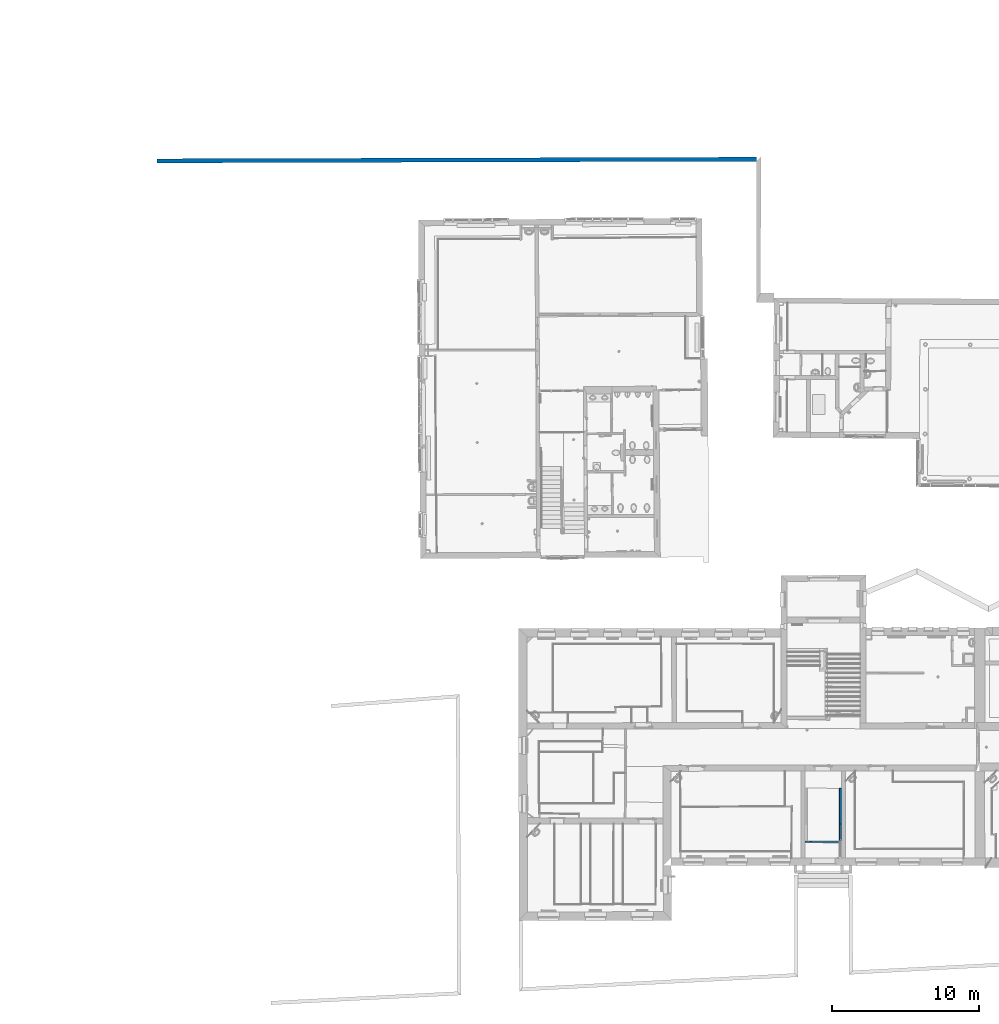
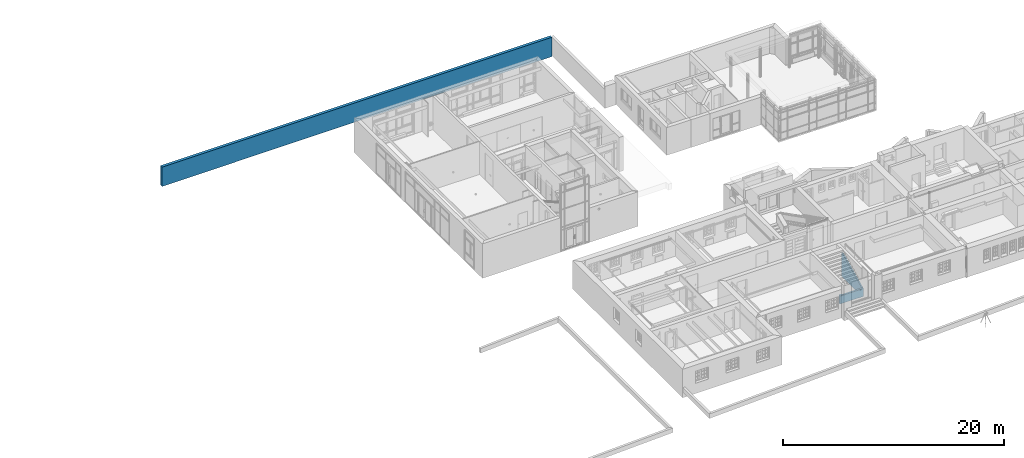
# One storey, part 78 of 196: 3 walls.
"""IFC2X3 building model written with IfcOpenShell, lengths in metres."""

from ifc_helpers import new_model, entity, si_unit, converted_unit, derived_unit, money_unit, direction, frame, origin_with_axes, place, context, subcontext, project, spatial, polyline, outline, extrude, boolean, faceted_brep, material, type_object, element, save


model = new_model("IFC2X3")

# Units and contexts
model_context = context("Model", 3, precision=1e-05, world=origin_with_axes(), true_north=direction((0.0, 1.0)))
body_context = subcontext(model_context, "Body", "Model", "MODEL_VIEW")
ifc_project = project(units=[si_unit("LENGTHUNIT", "METRE"), si_unit("AREAUNIT", "SQUARE_METRE"), si_unit("VOLUMEUNIT", "CUBIC_METRE"), converted_unit("PLANEANGLEUNIT", "DEGREE", entity("IfcPlaneAngleMeasure", 0.0174532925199), si_unit("PLANEANGLEUNIT", "RADIAN"), dimensions=[0, 0, 0, 0, 0, 0, 0]), money_unit("EUR"), converted_unit("TIMEUNIT", "Year", entity("IfcTimeMeasure", 31556926.0), si_unit("TIMEUNIT", "SECOND"), dimensions=[0, 0, 1, 0, 0, 0, 0]), si_unit("MASSUNIT", "GRAM", prefix="KILO"), si_unit("THERMODYNAMICTEMPERATUREUNIT", "DEGREE_CELSIUS"), si_unit("LUMINOUSINTENSITYUNIT", "LUMEN"), si_unit("ENERGYUNIT", "JOULE", prefix="MEGA"), derived_unit("THERMALCONDUCTANCEUNIT", [(si_unit("POWERUNIT", "WATT"), 1), (si_unit("LENGTHUNIT", "METRE"), -1), (si_unit("THERMODYNAMICTEMPERATUREUNIT", "KELVIN"), -1)]), derived_unit("SPECIFICHEATCAPACITYUNIT", [(si_unit("ENERGYUNIT", "JOULE"), 1), (si_unit("MASSUNIT", "GRAM", prefix="KILO"), -1), (si_unit("THERMODYNAMICTEMPERATUREUNIT", "KELVIN"), -1)]), derived_unit("MASSDENSITYUNIT", [(si_unit("MASSUNIT", "GRAM", prefix="KILO"), 1), (si_unit("VOLUMEUNIT", "CUBIC_METRE"), -1)])], contexts=[model_context])

# Site, building, storey
site_placement = place(None, origin_with_axes())
site = spatial("IfcSite", under=ifc_project, at=site_placement, Name="Gelände", CompositionType="ELEMENT")
building_placement = place(site_placement, origin_with_axes())
building = spatial("IfcBuilding", under=site, at=building_placement, Name="Gebäude", CompositionType="ELEMENT")
storey_placement = place(building_placement, frame((0.0, 0.0, -3.0), z_axis=(0.0, 0.0, 1.0), x_axis=(1.0, 0.0, 0.0)))
storey = spatial("IfcBuildingStorey", under=building, at=storey_placement, Name="KELLERGESCHOSS", CompositionType="ELEMENT", Elevation=-3.0)

# Walls
ifc_material = material(Name="05_ALLGEMEIN - TRAGENDE BAUTEILE")
wall_type_1 = type_object("IfcWallType", Name="05_ALLGEMEIN - TRAGENDE BAUTEILE 280", PredefinedType="ELEMENTEDWALL")
wall_1_placement = place(storey_placement, frame((-11.9120380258, 57.9060477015, 0.351186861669), z_axis=(0.0, 0.0, 1.0), x_axis=(-0.999996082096, -0.00279924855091, 0.0)))
element("IfcWall", 1, at=wall_1_placement, inside=storey, type_object=wall_type_1, material=ifc_material, Name="Wand-030", ObjectType="ELEMENTEDWALL", context=body_context, shape_type="CSG", body=[
    boolean("DIFFERENCE", boolean("DIFFERENCE", extrude(outline(polyline([(-0.281221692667, -0.28), (40.8435935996, -0.28), (40.8435935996, 0.0), (-0.281221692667, 0.0), (-0.281221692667, -0.28)])), origin_with_axes(), (0.0, 0.0, 1.0), 2.14290263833), faceted_brep([(33.8388157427, 0.0, 0.0), (34.0438513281, -0.28, 0.0), (7.8762362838, -0.28, 0.0), (6.60895012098, 0.0, 0.0), (31.9331013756, 0.0, 0.0178797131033), (32.2626395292, -0.28, 0.0167116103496), (14.5317369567, -0.28, 0.0135414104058), (29.0819881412, -0.28, 0.0214847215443), (13.8035309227, 0.0, 0.0146382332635), (28.6809350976, 0.0, 0.0227601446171)], [[[0, 1, 2, 3]], [[0, 4, 5, 1]], [[6, 2, 1, 5, 7]], [[8, 3, 2, 6]], [[4, 0, 3, 8, 9]], [[4, 9, 7, 5]], [[9, 8, 6, 7]]])), faceted_brep([(0.0, -0.28, 0.0888131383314), (-0.00121903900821, -0.28, 0.0888131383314), (-0.00121903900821, -0.28, 2.14290263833), (-0.281221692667, -0.28, 2.14290263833), (-0.281221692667, -0.28, 0.0), (0.0, -0.28, 0.0), (0.0, 0.0, 0.0888131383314), (0.0, 0.0, 2.14290263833), (-0.281221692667, 0.0, 2.14290263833), (-0.281221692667, 0.0, 0.0), (0.0, 0.0, 0.0)], [[[0, 1, 2, 3, 4, 5]], [[1, 0, 6]], [[7, 2, 1, 6]], [[2, 7, 8, 3]], [[8, 9, 4, 3]], [[10, 5, 4, 9]], [[10, 6, 0, 5]], [[6, 10, 9, 8, 7]]])),
])
wall_type_2 = type_object("IfcWallType", Name="05_ALLGEMEIN - TRAGENDE BAUTEILE 120", PredefinedType="ELEMENTEDWALL")
wall_2_placement = place(storey_placement, frame((-8.61183132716, 11.6288035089, -0.1), z_axis=(0.0, 0.0, 1.0), x_axis=(0.999983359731, -0.00576890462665, 0.0)))
element("IfcWall", 2, at=wall_2_placement, inside=storey, type_object=wall_type_2, material=ifc_material, Name="Wand-037", ObjectType="ELEMENTEDWALL", context=body_context, shape_type="CSG", body=[
    boolean("DIFFERENCE", extrude(outline(polyline([(-0.280006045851, -0.12), (2.75538607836, -0.12), (2.75538607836, 0.0), (-0.280006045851, 0.0), (-0.280006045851, -0.12)])), origin_with_axes(), (0.0, 0.0, 1.0), 1.02429802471), faceted_brep([(0.0, 0.0, 1.02429802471), (-1.5357493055e-10, 0.0, 1.02174445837), (0.272555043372, 0.0, 1.02397747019), (0.171854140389, 0.0, 1.02429802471), (2.75538607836, 0.0, 1.02429802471), (2.75538607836, 0.0, 0.0), (-0.280006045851, 0.0, 0.0), (-0.280006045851, 0.0, 1.02429802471), (0.0, 0.0, 0.0595719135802), (2.33466511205, 0.0, 0.0595719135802), (2.33466511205, 0.0, 0.996067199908), (0.0, 0.0, 0.976939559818), (0.000788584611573, -0.12, 0.966714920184), (0.000788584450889, -0.119999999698, 0.961200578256), (7.42122072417e-06, -0.00112929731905, 1.02429802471), (0.00037736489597, -0.0574241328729, 0.997027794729), (0.485518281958, -0.12000000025, 0.965171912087), (0.370152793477, -0.0549941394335, 0.997027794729), (-0.280006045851, -0.12, 1.02429802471), (2.75538607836, -0.12, 1.02429802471), (2.75538607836, -0.12, 0.0), (-0.280006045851, -0.12, 0.0), (0.000788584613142, -0.12, 0.0595719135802), (2.46538097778, -0.119999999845, 0.0595719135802), (2.46467203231, -0.000772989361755, 0.0595719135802), (2.33466970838, -0.000772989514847, 0.0595719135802), (2.33466970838, -0.000772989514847, 0.995677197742), (2.46538097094, -0.120000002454, 0.936587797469), (0.000788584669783, -0.119999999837, 0.916395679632), (2.46467202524, -0.000772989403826, 0.99674229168)], [[[0, 1, 2, 3, 4, 5, 6, 7], [8, 9, 10, 11]], [[12, 13, 1, 0, 14, 15]], [[13, 16, 17, 2, 1]], [[3, 2, 17, 15, 14]], [[14, 0, 7, 18, 19, 4, 3]], [[19, 20, 5, 4]], [[20, 21, 6, 5]], [[7, 6, 21, 18]], [[22, 23, 24, 25, 9, 8]], [[10, 9, 25, 26]], [[27, 28, 11, 10, 26, 29]], [[28, 22, 8, 11]], [[18, 21, 20, 19], [13, 12, 16], [22, 28, 27, 23]], [[16, 12, 15, 17]], [[23, 27, 29, 24]], [[26, 25, 24, 29]]])),
])
wall_type_3 = type_object("IfcWallType", Name="05_ALLGEMEIN - TRAGENDE BAUTEILE 130", PredefinedType="ELEMENTEDWALL")
wall_3_placement = place(storey_placement, frame((-6.1478409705, 15.2045556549, -0.36), z_axis=(0.0, 0.0, 1.0), x_axis=(0.000177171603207, -0.999999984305, 0.0)))
element("IfcWall", 3, at=wall_3_placement, inside=storey, type_object=wall_type_3, material=ifc_material, Name="Wand-037", ObjectType="ELEMENTEDWALL", context=body_context, shape_type="CSG", body=[
    boolean("DIFFERENCE", boolean("DIFFERENCE", extrude(outline(polyline([(0.0, -0.13), (3.58997063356, -0.13), (3.58997063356, 0.0), (0.0, 0.0), (0.0, -0.13)])), origin_with_axes(), (0.0, 0.0, 1.0), 3.065), faceted_brep([(0.0, 1.36477611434e-08, 0.31957191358), (3.58997063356, 2.57444305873e-08, 0.31957191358), (3.58997063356, 0.0, 0.0), (0.0, 0.0, 0.0), (3.58997063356, -0.13, 0.31957191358), (0.0, -0.13, 0.31957191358), (3.58997063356, -0.13, 0.0), (0.0, -0.13, 0.0)], [[[0, 1, 2, 3]], [[4, 1, 0, 5]], [[1, 4, 6, 2]], [[6, 7, 3, 2]], [[5, 0, 3, 7]], [[4, 5, 7, 6]]])), faceted_brep([(0.156908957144, 0.0, 2.94), (0.0, 6.21385609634e-10, 2.94), (0.0, 0.0, 3.065), (3.58997063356, 0.0, 3.065), (3.58997063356, 1.67664406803e-08, 1.27699946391), (3.54898223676, 0.0, 1.29685454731), (3.46676476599, 0.0, 1.33668129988), (3.38454729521, 0.0, 1.37650805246), (3.30232982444, 0.0, 1.41633480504), (3.22011235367, 0.0, 1.45616155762), (3.1378948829, 0.0, 1.49598831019), (3.05567741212, 0.0, 1.53581506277), (2.97345994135, 0.0, 1.57564181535), (2.89124247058, 0.0, 1.61546856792), (2.80902499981, 0.0, 1.6552953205), (2.72680752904, 0.0, 1.69512207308), (2.64459005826, 0.0, 1.73494882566), (2.56237258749, 0.0, 1.77477557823), (2.48015511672, 0.0, 1.81460233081), (2.39793764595, 0.0, 1.85442908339), (2.31572017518, 0.0, 1.89425583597), (2.2335027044, 0.0, 1.93408258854), (2.15128523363, 0.0, 1.97390934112), (2.06906776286, 0.0, 2.0137360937), (1.98685029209, 0.0, 2.05356284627), (1.90463282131, 0.0, 2.09338959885), (1.82241535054, 0.0, 2.13321635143), (1.74019787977, 0.0, 2.17304310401), (1.657980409, 0.0, 2.21286985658), (1.57576293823, 0.0, 2.25269660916), (1.49354546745, 0.0, 2.29252336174), (1.41132799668, 0.0, 2.33235011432), (1.32911052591, 0.0, 2.37217686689), (1.24689305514, 0.0, 2.41200361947), (1.16467558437, 0.0, 2.45183037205), (1.08245811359, 0.0, 2.49165712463), (1.00024064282, 0.0, 2.5314838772), (0.918023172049, 0.0, 2.57131062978), (0.835805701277, 0.0, 2.61113738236), (0.753588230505, 0.0, 2.65096413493), (0.671370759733, 0.0, 2.69079088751), (0.589153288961, 0.0, 2.73061764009), (0.506935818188, 0.0, 2.77044439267), (0.424718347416, 0.0, 2.81027114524), (0.342500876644, 0.0, 2.85009789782), (0.260283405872, 0.0, 2.8899246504), (0.1780659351, 0.0, 2.92975140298), (0.156990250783, -0.13, 2.94), (0.0, -0.13, 2.94), (0.0, -0.13, 3.065), (3.58997063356, -0.13, 3.065), (3.58997063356, -0.13, 1.27703884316), (3.5490635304, -0.13, 1.29685454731), (3.46684605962, -0.13, 1.33668129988), (3.38462858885, -0.13, 1.37650805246), (3.30241111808, -0.13, 1.41633480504), (3.22019364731, -0.13, 1.45616155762), (3.13797617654, -0.13, 1.49598831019), (3.05575870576, -0.13, 1.53581506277), (2.97354123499, -0.13, 1.57564181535), (2.89132376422, -0.13, 1.61546856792), (2.80910629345, -0.13, 1.6552953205), (2.72688882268, -0.13, 1.69512207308), (2.6446713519, -0.13, 1.73494882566), (2.56245388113, -0.13, 1.77477557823), (2.48023641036, -0.13, 1.81460233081), (2.39801893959, -0.13, 1.85442908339), (2.31580146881, -0.13, 1.89425583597), (2.23358399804, -0.13, 1.93408258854), (2.15136652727, -0.13, 1.97390934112), (2.0691490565, -0.13, 2.0137360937), (1.98693158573, -0.13, 2.05356284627), (1.90471411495, -0.13, 2.09338959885), (1.82249664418, -0.13, 2.13321635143), (1.74027917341, -0.13, 2.17304310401), (1.65806170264, -0.13, 2.21286985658), (1.57584423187, -0.13, 2.25269660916), (1.49362676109, -0.13, 2.29252336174), (1.41140929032, -0.13, 2.33235011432), (1.32919181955, -0.13, 2.37217686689), (1.24697434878, -0.13, 2.41200361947), (1.164756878, -0.13, 2.45183037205), (1.08253940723, -0.13, 2.49165712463), (1.00032193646, -0.13, 2.5314838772), (0.918104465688, -0.13, 2.57131062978), (0.835886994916, -0.13, 2.61113738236), (0.753669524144, -0.13, 2.65096413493), (0.671452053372, -0.13, 2.69079088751), (0.5892345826, -0.13, 2.73061764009), (0.507017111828, -0.13, 2.77044439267), (0.424799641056, -0.13, 2.81027114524), (0.342582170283, -0.13, 2.85009789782), (0.260364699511, -0.13, 2.8899246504), (0.178147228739, -0.13, 2.92975140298)], [[[0, 1, 2, 3, 4, 5, 6, 7, 8, 9, 10, 11, 12, 13, 14, 15, 16, 17, 18, 19, 20, 21, 22, 23, 24, 25, 26, 27, 28, 29, 30, 31, 32, 33, 34, 35, 36, 37, 38, 39, 40, 41, 42, 43, 44, 45, 46]], [[1, 0, 47, 48]], [[1, 48, 49, 2]], [[2, 49, 50, 3]], [[51, 4, 3, 50]], [[5, 4, 51, 52]], [[6, 5, 52, 53]], [[7, 6, 53, 54]], [[8, 7, 54, 55]], [[9, 8, 55, 56]], [[10, 9, 56, 57]], [[11, 10, 57, 58]], [[12, 11, 58, 59]], [[13, 12, 59, 60]], [[14, 13, 60, 61]], [[15, 14, 61, 62]], [[16, 15, 62, 63]], [[17, 16, 63, 64]], [[18, 17, 64, 65]], [[19, 18, 65, 66]], [[20, 19, 66, 67]], [[21, 20, 67, 68]], [[22, 21, 68, 69]], [[23, 22, 69, 70]], [[24, 23, 70, 71]], [[25, 24, 71, 72]], [[26, 25, 72, 73]], [[27, 26, 73, 74]], [[28, 27, 74, 75]], [[29, 28, 75, 76]], [[30, 29, 76, 77]], [[31, 30, 77, 78]], [[32, 31, 78, 79]], [[33, 32, 79, 80]], [[34, 33, 80, 81]], [[35, 34, 81, 82]], [[36, 35, 82, 83]], [[37, 36, 83, 84]], [[38, 37, 84, 85]], [[39, 38, 85, 86]], [[40, 39, 86, 87]], [[41, 40, 87, 88]], [[42, 41, 88, 89]], [[43, 42, 89, 90]], [[44, 43, 90, 91]], [[45, 44, 91, 92]], [[46, 45, 92, 93]], [[0, 46, 93, 47]], [[52, 51, 50, 49, 48, 47, 93, 92, 91, 90, 89, 88, 87, 86, 85, 84, 83, 82, 81, 80, 79, 78, 77, 76, 75, 74, 73, 72, 71, 70, 69, 68, 67, 66, 65, 64, 63, 62, 61, 60, 59, 58, 57, 56, 55, 54, 53]]])),
])

save(model, "model.ifc")
